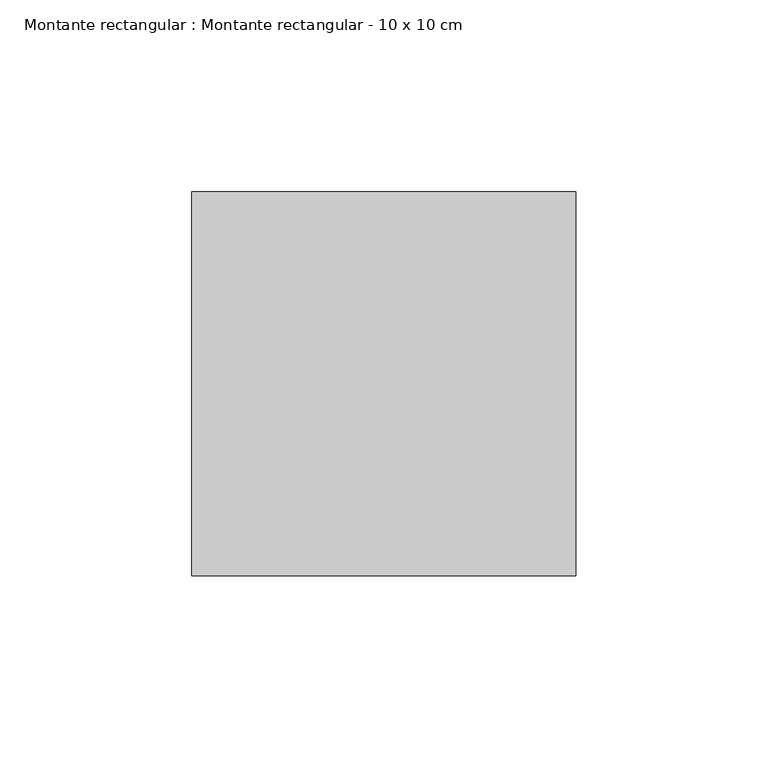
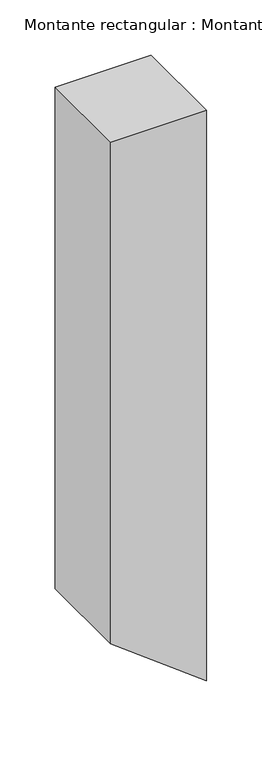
"""IFC4 building model written with IfcOpenShell, lengths in millimetres: member geometry, Montante rectangular : Montante rectangular - 10 x 10 cm."""

import ifcopenshell
import ifcopenshell.guid

model = None  # the IFC model being written
_history = None  # IfcOwnerHistory: only IFC2X3 demands one
_inside = {}  # id of a spatial element -> (the spatial element, [elements in it])
_under = {}  # id of a project, library or spatial element -> (it, [spatial elements below it])
_declared = {}  # id of a project -> (the project, [libraries it declares])
_typed = {}  # id of a type object -> (the type object, [elements of that type])
_made_of = {}  # id of a material, layer set ... -> (it, [elements and type objects made of it])


def new_model(schema):
    """Start an empty IFC model of exactly this schema.

    Asked for "IFC4X3", IfcOpenShell would pick the latest addendum, in which some entities
    have other attributes; the version numbers below select the first issue.
    IFC2X3 requires an IfcOwnerHistory on every rooted entity: one is made here for all.
    """
    global model, _history
    if schema == "IFC4X3":
        model = ifcopenshell.file(schema_version=(4, 3, 0, 0))
    else:
        model = ifcopenshell.file(schema=schema)
    _inside.clear()
    _under.clear()
    _declared.clear()
    _typed.clear()
    _made_of.clear()
    _history = None
    if model.schema == "IFC2X3":
        org = make("IfcOrganization", Name="unknown")
        user = make(
            "IfcPersonAndOrganization",
            ThePerson=make("IfcPerson", FamilyName="unknown"),
            TheOrganization=org,
        )
        app = make(
            "IfcApplication",
            ApplicationDeveloper=org,
            Version="unknown",
            ApplicationFullName="unknown",
            ApplicationIdentifier="unknown",
        )
        _history = make(
            "IfcOwnerHistory",
            OwningUser=user,
            OwningApplication=app,
            ChangeAction="ADDED",
            CreationDate=0,
        )
    return model


def make(cls, **values):
    """One entity of the class cls with the attributes given. An attribute that is None is left unset."""
    return model.create_entity(
        cls, **{name: value for name, value in values.items() if value is not None}
    )


def rooted(cls, **values):
    """An entity with a GlobalId (a new one), such as an element, a storey or a relation."""
    return make(cls, GlobalId=ifcopenshell.guid.new(), OwnerHistory=_history, **values)


def si_unit(unit_type, name, prefix=None):
    """IfcSIUnit, for example si_unit("LENGTHUNIT", "METRE", prefix="MILLI")."""
    return make("IfcSIUnit", UnitType=unit_type, Prefix=prefix, Name=name)


def assignment(units):
    """IfcUnitAssignment: the units of a project."""
    return None if units is None else make("IfcUnitAssignment", Units=units)


def point(xyz):
    """IfcCartesianPoint."""
    return None if xyz is None else make("IfcCartesianPoint", Coordinates=xyz)


def direction(xyz):
    """IfcDirection."""
    return None if xyz is None else make("IfcDirection", DirectionRatios=xyz)


def frame(location, z_axis=None, x_axis=None):
    """IfcAxis2Placement3D, a coordinate frame: its origin and axes. An axis left out is left unset."""
    return make(
        "IfcAxis2Placement3D",
        Location=point(location),
        Axis=direction(z_axis),
        RefDirection=direction(x_axis),
    )


def origin():
    """The frame at (0, 0, 0) with its axes left unset."""
    return frame((0.0, 0.0, 0.0))


def place(relative_to, where):
    """IfcLocalPlacement: puts the frame where relative to a parent placement (None: the world)."""
    return make(
        "IfcLocalPlacement", PlacementRelTo=relative_to, RelativePlacement=where
    )


def context(
    kind, dimensions, precision=None, world=None, true_north=None, identifier=None
):
    """IfcGeometricRepresentationContext, for example the 3D "Model" context."""
    return make(
        "IfcGeometricRepresentationContext",
        ContextIdentifier=identifier,
        ContextType=kind,
        CoordinateSpaceDimension=dimensions,
        Precision=precision,
        WorldCoordinateSystem=world,
        TrueNorth=true_north,
    )


def project(units=None, contexts=None):
    """IfcProject with its units and contexts."""
    return rooted(
        "IfcProject",
        Name="project",
        RepresentationContexts=contexts,
        UnitsInContext=assignment(units),
    )


def spatial(cls, under=None, at=None, **own):
    """A site, building, storey or space (cls), placed at a placement, below another one or the project."""
    s = rooted(cls, ObjectPlacement=at, **own)
    if under is not None:
        _under.setdefault(under.id(), (under, []))[1].append(s)
    return s


def polyline(points):
    """IfcPolyline through the points."""
    return make("IfcPolyline", Points=[point(p) for p in points])


def outline(outer, holes=None, kind="AREA"):
    """IfcArbitraryClosedProfileDef: a profile drawn as a closed curve; with holes, ...WithVoids."""
    if holes is None:
        return make("IfcArbitraryClosedProfileDef", ProfileType=kind, OuterCurve=outer)
    return make(
        "IfcArbitraryProfileDefWithVoids",
        ProfileType=kind,
        OuterCurve=outer,
        InnerCurves=holes,
    )


def extrude(swept, where, along, depth):
    """IfcExtrudedAreaSolid: the profile swept, set in the frame where, extruded along a direction by depth."""
    return make(
        "IfcExtrudedAreaSolid",
        SweptArea=swept,
        Position=where,
        ExtrudedDirection=direction(along),
        Depth=depth,
    )


def shape(context_of_items, identifier, shape_type, items):
    """IfcShapeRepresentation: the items that make up one representation, for example the "Body"."""
    return make(
        "IfcShapeRepresentation",
        ContextOfItems=context_of_items,
        RepresentationIdentifier=identifier,
        RepresentationType=shape_type,
        Items=items,
    )


def source(mapping_origin, context_of_items, identifier, shape_type, items):
    """IfcRepresentationMap: a shape defined once, which mapped items show again and again."""
    return make(
        "IfcRepresentationMap",
        MappingOrigin=mapping_origin,
        MappedRepresentation=shape(context_of_items, identifier, shape_type, items),
    )


def transform(
    local_origin,
    x_axis=None,
    y_axis=None,
    z_axis=None,
    scale=None,
    scale2=None,
    scale3=None,
    uniform=True,
):
    """IfcCartesianTransformationOperator3D, or its non-uniform kind. x_axis, y_axis, z_axis: its Axis1, 2, 3."""
    if uniform:
        return make(
            "IfcCartesianTransformationOperator3D",
            Axis1=direction(x_axis),
            Axis2=direction(y_axis),
            LocalOrigin=point(local_origin),
            Scale=scale,
            Axis3=direction(z_axis),
        )
    return make(
        "IfcCartesianTransformationOperator3DnonUniform",
        Axis1=direction(x_axis),
        Axis2=direction(y_axis),
        LocalOrigin=point(local_origin),
        Scale=scale,
        Axis3=direction(z_axis),
        Scale2=scale2,
        Scale3=scale3,
    )


def mapped(mapping_source, mapping_target):
    """IfcMappedItem: shows the shape of a source again, moved by a transform."""
    return make(
        "IfcMappedItem", MappingSource=mapping_source, MappingTarget=mapping_target
    )


def made_of(thing, what):
    """Note that an element or type object is made of a material, layer set ...; save() writes the relation."""
    if what is not None:
        _made_of.setdefault(what.id(), (what, []))[1].append(thing)
    return thing


def element(
    cls,
    number,
    at=None,
    inside=None,
    cuts=None,
    type_object=None,
    material=None,
    context=None,
    identifier="Body",
    shape_type=None,
    held_by="IfcProductDefinitionShape",
    body=None,
    shapes=None,
    **own,
):
    """One element of the class cls, such as IfcWall. Its Tag is "e" and its number.

    at: its placement. inside: the storey or other place that contains it. cuts: it is an
    opening in that element (IfcRelVoidsElement). A single representation is given by context,
    identifier, shape_type and body (its items); several are given by shapes. held_by: the class
    of the entity that holds the representations. save() writes the other relations.
    """
    e = rooted(cls, Tag="e%d" % number, ObjectPlacement=at, **own)
    if body is not None:
        shapes = [shape(context, identifier, shape_type, body)]
    if shapes is not None:
        e.Representation = make(held_by, Representations=shapes)
    if inside is not None:
        _inside.setdefault(inside.id(), (inside, []))[1].append(e)
    if cuts is not None:
        rooted(
            "IfcRelVoidsElement", RelatingBuildingElement=cuts, RelatedOpeningElement=e
        )
    if type_object is not None:
        _typed.setdefault(type_object.id(), (type_object, []))[1].append(e)
    return made_of(e, material)


def aggregate(whole, parts):
    """IfcRelAggregates: a whole, such as a stair, and the parts it consists of."""
    return rooted("IfcRelAggregates", RelatingObject=whole, RelatedObjects=parts)


def save(model, path):
    """Write the relations noted so far, then the file.

    IfcRelAggregates (storeys below a building ...), IfcRelContainedInSpatialStructure (elements
    in a storey), IfcRelDefinesByType, IfcRelAssociatesMaterial and IfcRelDeclares: one each for
    every whole, place, type object, material and project.
    """
    for whole, parts in _under.values():
        aggregate(whole, parts)
    for where, things in _inside.values():
        rooted(
            "IfcRelContainedInSpatialStructure",
            RelatedElements=things,
            RelatingStructure=where,
        )
    for kind, things in _typed.values():
        rooted("IfcRelDefinesByType", RelatedObjects=things, RelatingType=kind)
    for what, things in _made_of.values():
        rooted("IfcRelAssociatesMaterial", RelatedObjects=things, RelatingMaterial=what)
    for by, libraries in _declared.values():
        rooted("IfcRelDeclares", RelatingContext=by, RelatedDefinitions=libraries)
    model.write(path)


def montante_rectangular_montante_rectangular_10_x_10_cm_d168aece(model_context):
    return source(origin(), model_context, "Body", "SweptSolid", [
        extrude(outline(polyline([(0.0, 0.0), (0.0, -100.0), (-552.6676437, -100.0), (-628.6724387, 0.0), (0.0, 0.0)])), frame((0.0, -50.0, 0.0), z_axis=(0.0, 1.0, 0.0), x_axis=(0.0, 0.0, 1.0)), (0.0, 0.0, 1.0), 100.0),
    ])


if __name__ == "__main__":
    model = new_model("IFC4")
    model_context = context("Model", 3, world=origin())
    ifc_project = project(units=[si_unit("LENGTHUNIT", "METRE", prefix="MILLI")], contexts=[model_context])
    site = spatial("IfcSite", under=ifc_project)
    building = spatial("IfcBuilding", under=site)
    placement = place(None, origin())
    montante_rectangular_montante_rectangular_10_x_10_cm_shape = montante_rectangular_montante_rectangular_10_x_10_cm_d168aece(model_context)
    element("IfcMember", 1, ObjectType="Montante rectangular : Montante rectangular - 10 x 10 cm", at=placement, inside=building, context=model_context, shape_type="MappedRepresentation", body=[
        mapped(montante_rectangular_montante_rectangular_10_x_10_cm_shape, transform((0.0, 0.0, 0.0), x_axis=(1.0, 0.0, 0.0), y_axis=(0.0, 1.0, 0.0), z_axis=(0.0, 0.0, 1.0))),
    ])
    save(model, "model.ifc")
